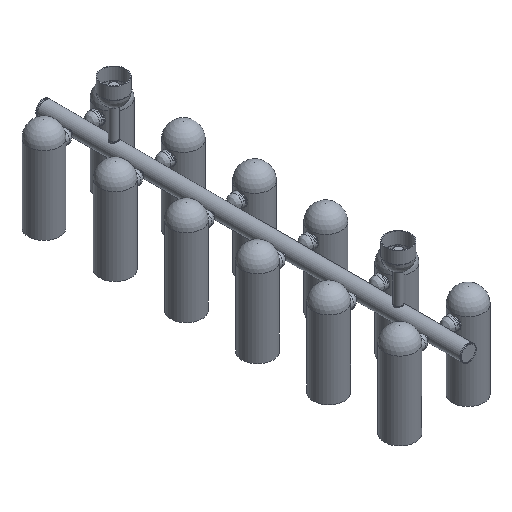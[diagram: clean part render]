
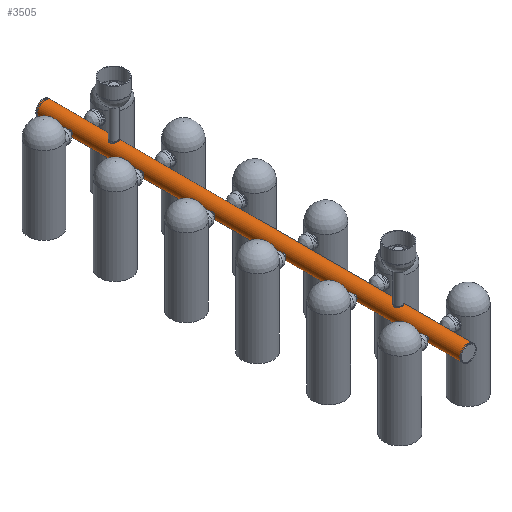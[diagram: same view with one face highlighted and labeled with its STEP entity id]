
A CAD part, isometric view. The second image highlights one B-rep face of the part: STEP entity #3505.
In plain terms, the highlighted cylindrical face has radius 25 mm (diameter 50 mm), a full revolution.
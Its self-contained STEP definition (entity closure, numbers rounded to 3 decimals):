
#295=LINE('',#8854,#412);
#412=VECTOR('',#4719,25.);
#575=CIRCLE('',#3967,25.);
#576=CIRCLE('',#3969,25.);
#989=FACE_OUTER_BOUND('',#1298,.T.);
#1298=EDGE_LOOP('',(#2638,#2639,#2640,#2641));
#1681=VERTEX_POINT('',#8848);
#1682=VERTEX_POINT('',#8851);
#2041=EDGE_CURVE('',#1681,#1681,#575,.T.);
#2042=EDGE_CURVE('',#1682,#1682,#576,.T.);
#2043=EDGE_CURVE('',#1681,#1682,#295,.T.);
#2638=ORIENTED_EDGE('',*,*,#2041,.F.);
#2639=ORIENTED_EDGE('',*,*,#2043,.T.);
#2640=ORIENTED_EDGE('',*,*,#2042,.F.);
#2641=ORIENTED_EDGE('',*,*,#2043,.F.);
#3338=CYLINDRICAL_SURFACE('',#3970,25.);
#3505=ADVANCED_FACE('',(#989),#3338,.T.);
#3967=AXIS2_PLACEMENT_3D('',#8849,#4711,#4712);
#3969=AXIS2_PLACEMENT_3D('',#8852,#4715,#4716);
#3970=AXIS2_PLACEMENT_3D('',#8853,#4717,#4718);
#4711=DIRECTION('center_axis',(0.,1.,0.));
#4712=DIRECTION('ref_axis',(0.,0.,1.));
#4715=DIRECTION('center_axis',(0.,-1.,0.));
#4716=DIRECTION('ref_axis',(0.,0.,1.));
#4717=DIRECTION('center_axis',(0.,1.,0.));
#4718=DIRECTION('ref_axis',(0.,0.,1.));
#4719=DIRECTION('',(0.,-1.,0.));
#8848=CARTESIAN_POINT('',(0.,681.5,198.));
#8849=CARTESIAN_POINT('Origin',(0.,681.5,223.));
#8851=CARTESIAN_POINT('',(0.,-681.5,198.));
#8852=CARTESIAN_POINT('Origin',(0.,-681.5,223.));
#8853=CARTESIAN_POINT('Origin',(0.,-681.5,223.));
#8854=CARTESIAN_POINT('',(0.,-681.5,198.));
